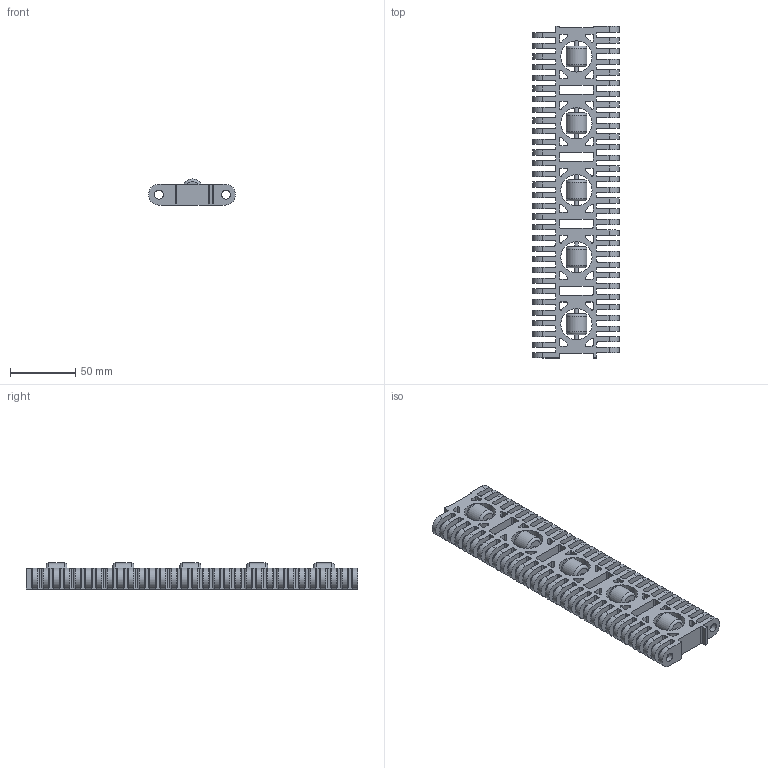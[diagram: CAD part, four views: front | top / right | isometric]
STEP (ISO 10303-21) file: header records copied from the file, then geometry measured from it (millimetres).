
FILE_DESCRIPTION(('CATIA V5 STEP Exchange'),'2;1');
FILE_NAME('C:\Users\ALI OZGUN\Desktop\alhan\TESLIMEDILEN3\957G01K08.stp','2017-12-29T11:03:03+00:00',('none'),('none'),'CATIA Version 5 Release 21 GA (IN-10)','CATIA V5 STEP AP203','none');
FILE_SCHEMA(('CONFIG_CONTROL_DESIGN'));
Length unit declared in the file: millimetre
Products named in the file (1): 957G01K08
Bounding box: 66.8 x 255 x 20 mm (x, y, z)
Volume: 138773.1 mm3; surface area: 81582.2 mm2
Topology: 11 solids, 11 shells, 741 faces, 2137 edges, 1418 vertices
Faces by surface type: cylinder 429, plane 292, torus 20
Entity records: 22597 total; most frequent: ORIENTED_EDGE 4274, CARTESIAN_POINT 3981, DIRECTION 2987, EDGE_CURVE 2137, VERTEX_POINT 1418, AXIS2_PLACEMENT_3D 1324, VECTOR 1239, LINE 1239
